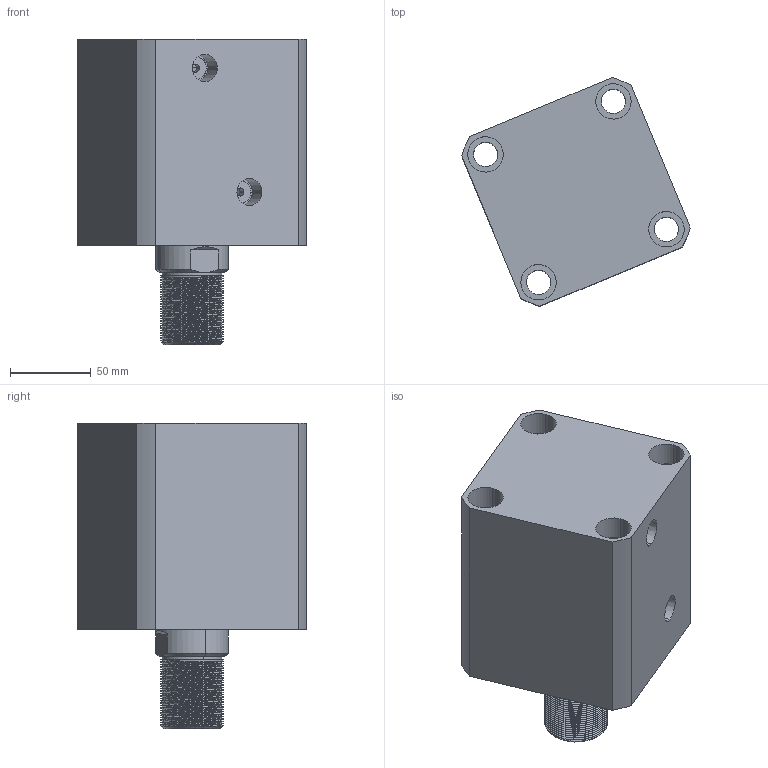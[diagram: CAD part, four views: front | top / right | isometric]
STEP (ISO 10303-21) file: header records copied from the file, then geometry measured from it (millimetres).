
FILE_DESCRIPTION (( 'STEP AP214' ), '1' );
FILE_NAME ('chtb-sd80x50n_asm.STEP', '2018-05-26T09:53:02', ( 'Windows' ), ( 'Microsoft' ), 'SwSTEP 2.0', 'SolidWorks 2015', '' );
FILE_SCHEMA (( 'AUTOMOTIVE_DESIGN' ));
Length unit declared in the file: millimetre
Products named in the file (4): CHTB-SD80X50NHSG; CHTB-SD80X50NBT; CHTB-SD80QG; chtb-sd80x50n_asm
Assembly tree (3 placements, depth 2):
  chtb-sd80x50n_asm
    CHTB-SD80QG
    CHTB-SD80X50NBT
    CHTB-SD80X50NHSG
Bounding box: 142.06 x 142.06 x 190 mm (x, y, z)
Volume: 1412168.5 mm3; surface area: 207188.6 mm2
Topology: 3 solids, 3 shells, 253 faces, 689 edges, 462 vertices
Faces by surface type: cylinder 159, plane 40, cone 20, torus 18, bspline 16
Entity records: 20271 total; most frequent: CARTESIAN_POINT 14293, ORIENTED_EDGE 1370, DIRECTION 1078, EDGE_CURVE 685, VERTEX_POINT 462, AXIS2_PLACEMENT_3D 439, EDGE_LOOP 291, ADVANCED_FACE 253
